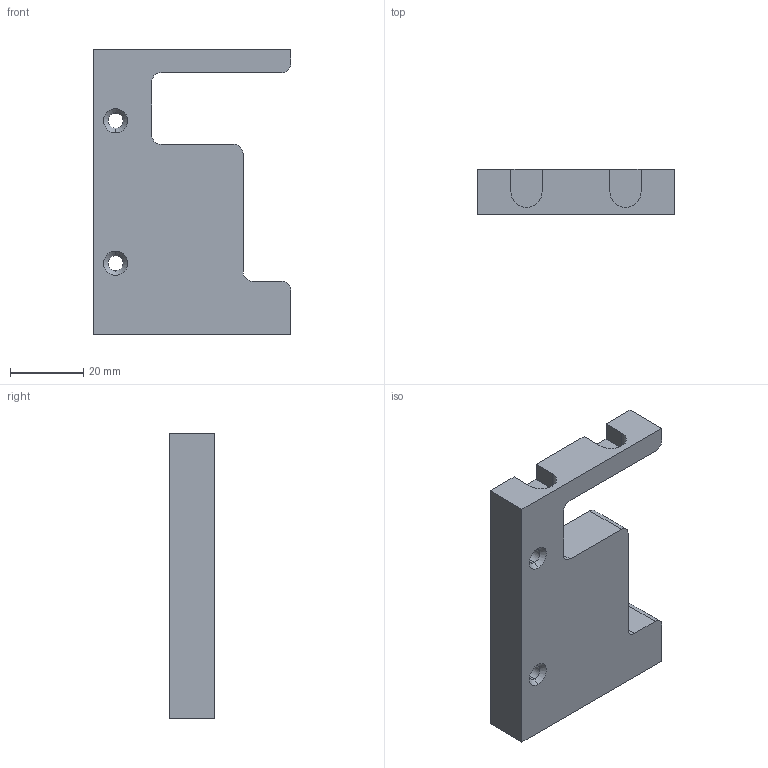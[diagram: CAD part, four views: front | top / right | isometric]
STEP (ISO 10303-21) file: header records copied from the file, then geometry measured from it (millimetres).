
FILE_DESCRIPTION (( 'STEP AP203' ), '1' );
FILE_NAME ('Section_B2.STEP', '2026-07-26T18:22:59', ( '' ), ( '' ), 'SwSTEP 2.0', 'SolidWorks 2024', '' );
FILE_SCHEMA (( 'CONFIG_CONTROL_DESIGN' ));
Length unit declared in the file: inch
Products named in the file (1): Section_B2
Bounding box: 54.19 x 12.34 x 78.08 mm (x, y, z)
Volume: 34921.9 mm3; surface area: 10706.5 mm2
Topology: 1 solids, 1 shells, 42 faces, 116 edges, 76 vertices
Faces by surface type: plane 24, cylinder 14, cone 4
Entity records: 1427 total; most frequent: CARTESIAN_POINT 235, DIRECTION 234, ORIENTED_EDGE 232, EDGE_CURVE 116, LINE 84, VECTOR 84, VERTEX_POINT 76, AXIS2_PLACEMENT_3D 75
